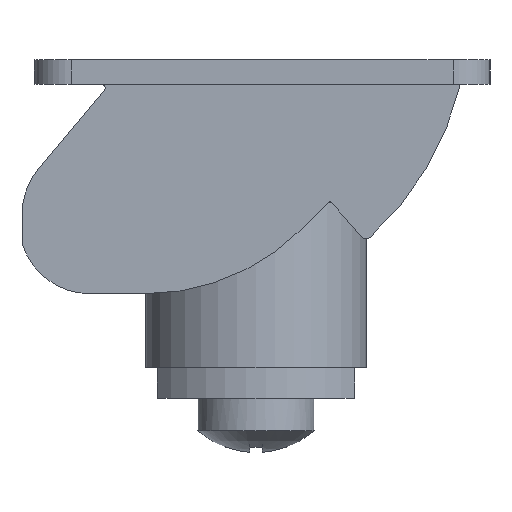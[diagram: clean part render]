
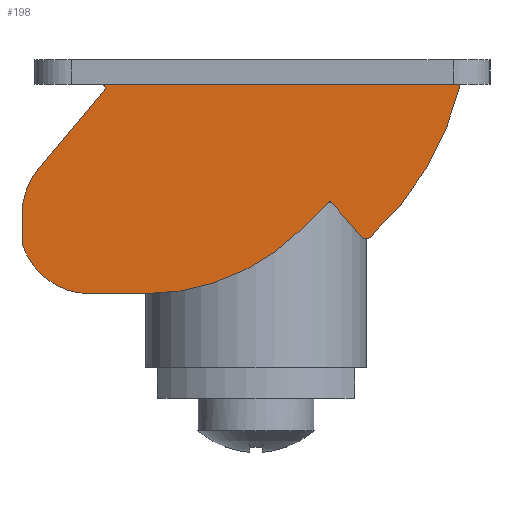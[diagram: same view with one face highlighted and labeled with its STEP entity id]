
A CAD part, left-side view. The second image highlights one B-rep face of the part: STEP entity #198.
In plain terms, the highlighted planar face has unit normal (-1, 0, 0).
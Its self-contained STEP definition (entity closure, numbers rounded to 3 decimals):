
#198 = ADVANCED_FACE( '', ( #320 ), #321, .F. );
#320 = FACE_OUTER_BOUND( '', #507, .T. );
#321 = PLANE( '', #508 );
#507 = EDGE_LOOP( '', ( #873, #874, #875, #876, #877, #878, #879, #880, #881, #882, #883, #884, #885 ) );
#508 = AXIS2_PLACEMENT_3D( '', #886, #887, #888 );
#873 = ORIENTED_EDGE( '', *, *, #1418, .F. );
#874 = ORIENTED_EDGE( '', *, *, #1419, .T. );
#875 = ORIENTED_EDGE( '', *, *, #1420, .T. );
#876 = ORIENTED_EDGE( '', *, *, #1421, .F. );
#877 = ORIENTED_EDGE( '', *, *, #1422, .F. );
#878 = ORIENTED_EDGE( '', *, *, #1423, .F. );
#879 = ORIENTED_EDGE( '', *, *, #1424, .F. );
#880 = ORIENTED_EDGE( '', *, *, #1425, .F. );
#881 = ORIENTED_EDGE( '', *, *, #1426, .F. );
#882 = ORIENTED_EDGE( '', *, *, #1427, .F. );
#883 = ORIENTED_EDGE( '', *, *, #1428, .T. );
#884 = ORIENTED_EDGE( '', *, *, #1429, .F. );
#885 = ORIENTED_EDGE( '', *, *, #1430, .F. );
#886 = CARTESIAN_POINT( '', ( -99., 7.058, 5.589 ) );
#887 = DIRECTION( '', ( 1., 0., 0. ) );
#888 = DIRECTION( '', ( 0., 0., -1. ) );
#1418 = EDGE_CURVE( '', #1701, #1702, #1703, .T. );
#1419 = EDGE_CURVE( '', #1701, #1704, #1705, .T. );
#1420 = EDGE_CURVE( '', #1704, #1706, #1707, .T. );
#1421 = EDGE_CURVE( '', #1708, #1706, #1709, .T. );
#1422 = EDGE_CURVE( '', #1710, #1708, #1711, .T. );
#1423 = EDGE_CURVE( '', #1712, #1710, #1713, .T. );
#1424 = EDGE_CURVE( '', #1714, #1712, #1715, .T. );
#1425 = EDGE_CURVE( '', #1716, #1714, #1717, .T. );
#1426 = EDGE_CURVE( '', #1718, #1716, #1719, .T. );
#1427 = EDGE_CURVE( '', #1720, #1718, #1721, .T. );
#1428 = EDGE_CURVE( '', #1720, #1722, #1723, .T. );
#1429 = EDGE_CURVE( '', #1724, #1722, #1725, .T. );
#1430 = EDGE_CURVE( '', #1702, #1724, #1726, .T. );
#1701 = VERTEX_POINT( '', #2121 );
#1702 = VERTEX_POINT( '', #2122 );
#1703 = CIRCLE( '', #2123, 24.298 );
#1704 = VERTEX_POINT( '', #2124 );
#1705 = LINE( '', #2125, #2126 );
#1706 = VERTEX_POINT( '', #2127 );
#1707 = CIRCLE( '', #2128, 0.3 );
#1708 = VERTEX_POINT( '', #2129 );
#1709 = LINE( '', #2130, #2131 );
#1710 = VERTEX_POINT( '', #2132 );
#1711 = CIRCLE( '', #2133, 5.8 );
#1712 = VERTEX_POINT( '', #2134 );
#1713 = LINE( '', #2135, #2136 );
#1714 = VERTEX_POINT( '', #2137 );
#1715 = CIRCLE( '', #2138, 5.8 );
#1716 = VERTEX_POINT( '', #2139 );
#1717 = LINE( '', #2140, #2141 );
#1718 = VERTEX_POINT( '', #2142 );
#1719 = CIRCLE( '', #2143, 18. );
#1720 = VERTEX_POINT( '', #2144 );
#1721 = LINE( '', #2145, #2146 );
#1722 = VERTEX_POINT( '', #2147 );
#1723 = CIRCLE( '', #2148, 0.2 );
#1724 = VERTEX_POINT( '', #2149 );
#1725 = LINE( '', #2150, #2151 );
#1726 = CIRCLE( '', #2152, 0.5 );
#2121 = CARTESIAN_POINT( '', ( -99., -16.589, 0. ) );
#2122 = CARTESIAN_POINT( '', ( -99., -9.265, -12.411 ) );
#2123 = AXIS2_PLACEMENT_3D( '', #2555, #2556, #2557 );
#2124 = CARTESIAN_POINT( '', ( -99., 12.552, 0. ) );
#2125 = CARTESIAN_POINT( '', ( -99., 15., 0. ) );
#2126 = VECTOR( '', #2558, 1000. );
#2127 = CARTESIAN_POINT( '', ( -99., 12.322, -0.493 ) );
#2128 = AXIS2_PLACEMENT_3D( '', #2559, #2560, #2561 );
#2129 = CARTESIAN_POINT( '', ( -99., 17.643, -6.834 ) );
#2130 = CARTESIAN_POINT( '', ( -99., 17.643, -6.834 ) );
#2131 = VECTOR( '', #2562, 1000. );
#2132 = CARTESIAN_POINT( '', ( -99., 19., -10.562 ) );
#2133 = AXIS2_PLACEMENT_3D( '', #2563, #2564, #2565 );
#2134 = CARTESIAN_POINT( '', ( -99., 19., -12.917 ) );
#2135 = CARTESIAN_POINT( '', ( -99., 19., -12.917 ) );
#2136 = VECTOR( '', #2566, 1000. );
#2137 = CARTESIAN_POINT( '', ( -99., 13.46, -17. ) );
#2138 = AXIS2_PLACEMENT_3D( '', #2567, #2568, #2569 );
#2139 = CARTESIAN_POINT( '', ( -99., 8.987, -17. ) );
#2140 = CARTESIAN_POINT( '', ( -99., 8.987, -17. ) );
#2141 = VECTOR( '', #2570, 1000. );
#2142 = CARTESIAN_POINT( '', ( -99., -3.741, -11.728 ) );
#2143 = AXIS2_PLACEMENT_3D( '', #2571, #2572, #2573 );
#2144 = CARTESIAN_POINT( '', ( -99., -5.865, -9.604 ) );
#2145 = CARTESIAN_POINT( '', ( -99., -5.865, -9.604 ) );
#2146 = VECTOR( '', #2574, 1000. );
#2147 = CARTESIAN_POINT( '', ( -99., -6.157, -9.614 ) );
#2148 = AXIS2_PLACEMENT_3D( '', #2575, #2576, #2577 );
#2149 = CARTESIAN_POINT( '', ( -99., -8.551, -12.368 ) );
#2150 = CARTESIAN_POINT( '', ( -99., -8.551, -12.368 ) );
#2151 = VECTOR( '', #2578, 1000. );
#2152 = AXIS2_PLACEMENT_3D( '', #2579, #2580, #2581 );
#2555 = CARTESIAN_POINT( '', ( -99., 7.058, 5.589 ) );
#2556 = DIRECTION( '', ( 1., 0., 0. ) );
#2557 = DIRECTION( '', ( 0., 0., -1. ) );
#2558 = DIRECTION( '', ( 0., 1., 0. ) );
#2559 = CARTESIAN_POINT( '', ( -99., 12.552, -0.3 ) );
#2560 = DIRECTION( '', ( 1., 0., 0. ) );
#2561 = DIRECTION( '', ( 0., 0., -1. ) );
#2562 = DIRECTION( '', ( 0., -0.643, 0.766 ) );
#2563 = CARTESIAN_POINT( '', ( -99., 13.2, -10.562 ) );
#2564 = DIRECTION( '', ( 1., 0., 0. ) );
#2565 = DIRECTION( '', ( 0., 0., -1. ) );
#2566 = DIRECTION( '', ( 0., 0., 1. ) );
#2567 = CARTESIAN_POINT( '', ( -99., 13.46, -11.2 ) );
#2568 = DIRECTION( '', ( 1., 0., 0. ) );
#2569 = DIRECTION( '', ( 0., 0., -1. ) );
#2570 = DIRECTION( '', ( 0., 1., 0. ) );
#2571 = CARTESIAN_POINT( '', ( -99., 8.987, 1. ) );
#2572 = DIRECTION( '', ( 1., 0., 0. ) );
#2573 = DIRECTION( '', ( 0., 0., -1. ) );
#2574 = DIRECTION( '', ( 0., 0.707, -0.707 ) );
#2575 = CARTESIAN_POINT( '', ( -99., -6.006, -9.745 ) );
#2576 = DIRECTION( '', ( 1., 0., 0. ) );
#2577 = DIRECTION( '', ( 0., 0., -1. ) );
#2578 = DIRECTION( '', ( 0., 0.656, 0.755 ) );
#2579 = CARTESIAN_POINT( '', ( -99., -8.929, -12.04 ) );
#2580 = DIRECTION( '', ( 1., 0., 0. ) );
#2581 = DIRECTION( '', ( 0., 0., -1. ) );
